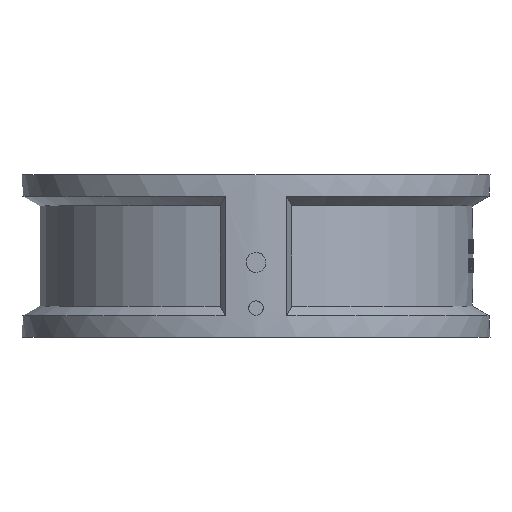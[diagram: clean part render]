
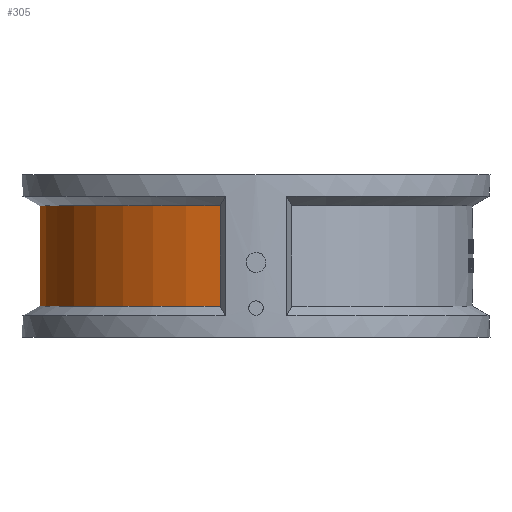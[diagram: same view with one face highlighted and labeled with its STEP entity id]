
A CAD part, left-side view. The second image highlights one B-rep face of the part: STEP entity #305.
In plain terms, the highlighted cylindrical face has radius 152 mm (diameter 304 mm), a partial arc.
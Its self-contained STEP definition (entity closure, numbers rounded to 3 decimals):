
#305 = ADVANCED_FACE( '', ( #874 ), #875, .T. );
#874 = FACE_OUTER_BOUND( '', #1903, .T. );
#875 = CYLINDRICAL_SURFACE( '', #1904, 152. );
#1903 = EDGE_LOOP( '', ( #14448, #14449, #14450, #14451 ) );
#1904 = AXIS2_PLACEMENT_3D( '', #14452, #14453, #14454 );
#14448 = ORIENTED_EDGE( '', *, *, #16498, .T. );
#14449 = ORIENTED_EDGE( '', *, *, #16499, .F. );
#14450 = ORIENTED_EDGE( '', *, *, #16500, .F. );
#14451 = ORIENTED_EDGE( '', *, *, #16501, .T. );
#14452 = CARTESIAN_POINT( '', ( 0., 0., -57. ) );
#14453 = DIRECTION( '', ( 0., 0., 1. ) );
#14454 = DIRECTION( '', ( -1., 0., 0. ) );
#16498 = EDGE_CURVE( '', #17410, #17411, #17412, .T. );
#16499 = EDGE_CURVE( '', #17413, #17411, #17414, .T. );
#16500 = EDGE_CURVE( '', #17415, #17413, #17416, .T. );
#16501 = EDGE_CURVE( '', #17415, #17410, #17417, .T. );
#17410 = VERTEX_POINT( '', #18802 );
#17411 = VERTEX_POINT( '', #18803 );
#17412 = LINE( '', #18804, #18805 );
#17413 = VERTEX_POINT( '', #18806 );
#17414 = CIRCLE( '', #18807, 152. );
#17415 = VERTEX_POINT( '', #18808 );
#17416 = LINE( '', #18809, #18810 );
#17417 = CIRCLE( '', #18811, 152. );
#18802 = CARTESIAN_POINT( '', ( 149.93, 25., 35.072 ) );
#18803 = CARTESIAN_POINT( '', ( 149.93, 25., -35.072 ) );
#18804 = CARTESIAN_POINT( '', ( 149.93, 25., 57. ) );
#18805 = VECTOR( '', #26452, 1000. );
#18806 = CARTESIAN_POINT( '', ( -149.93, 25., -35.072 ) );
#18807 = AXIS2_PLACEMENT_3D( '', #26453, #26454, #26455 );
#18808 = CARTESIAN_POINT( '', ( -149.93, 25., 35.072 ) );
#18809 = CARTESIAN_POINT( '', ( -149.93, 25., 57. ) );
#18810 = VECTOR( '', #26456, 1000. );
#18811 = AXIS2_PLACEMENT_3D( '', #26457, #26458, #26459 );
#26452 = DIRECTION( '', ( 0., 0., -1. ) );
#26453 = CARTESIAN_POINT( '', ( 0., 0., -35.072 ) );
#26454 = DIRECTION( '', ( 0., 0., -1. ) );
#26455 = DIRECTION( '', ( -1., 0., 0. ) );
#26456 = DIRECTION( '', ( 0., 0., -1. ) );
#26457 = CARTESIAN_POINT( '', ( 0., 0., 35.072 ) );
#26458 = DIRECTION( '', ( 0., 0., -1. ) );
#26459 = DIRECTION( '', ( -1., 0., 0. ) );
